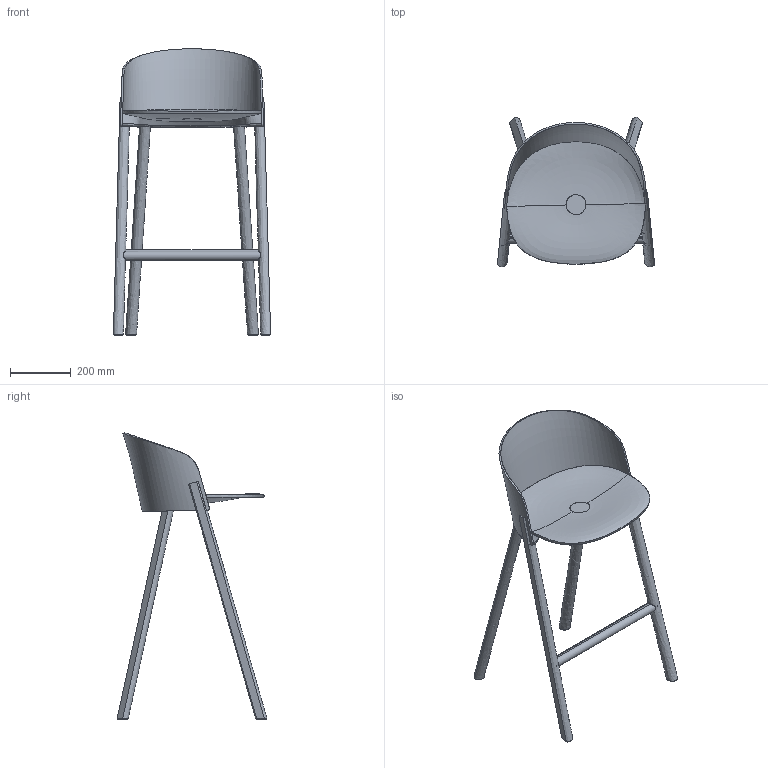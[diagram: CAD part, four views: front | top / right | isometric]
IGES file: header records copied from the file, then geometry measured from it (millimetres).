
Global section: file name: /Volumes/PROJECTS active/e15 T-shirt Barstool/rhino/Lehnen Version/Finale Daten/130209_E15_T-Shirt-Barstool_clean_rev003.igs; native system: Rhinoceros ( Jan 30 2013 ); preprocessor: Trout Lake IGES 012 Jan 30 2013; date: 130209.154912; units: millimetre
Bounding box: 516.28 x 491.59 x 940 mm (x, y, z)
Surface area: 1186869.8 mm2 (no closed solid volume)
Topology: 0 solids, 0 shells, 82 faces, 2189 edges, 2181 vertices
Faces by surface type: bspline 82
